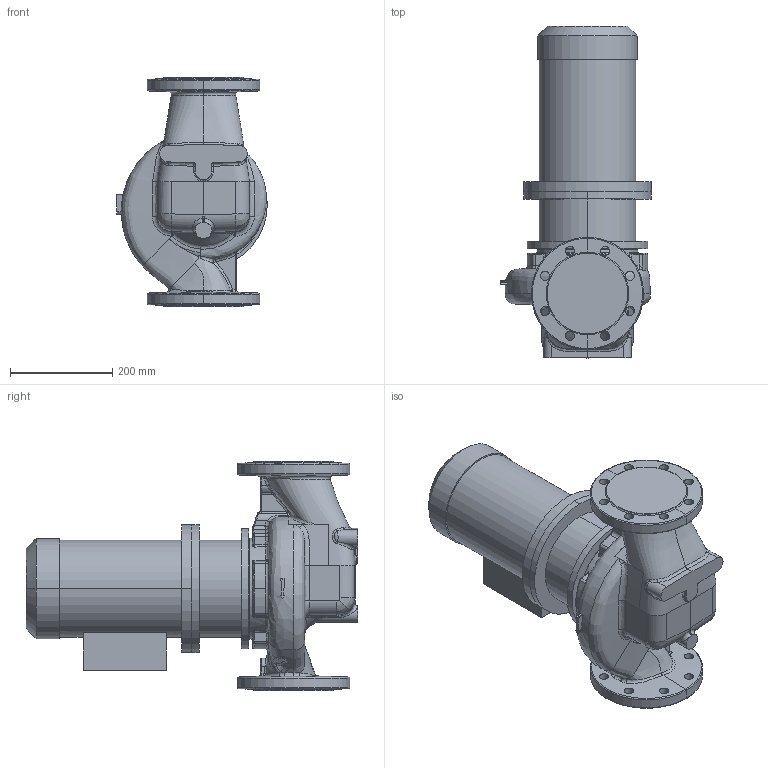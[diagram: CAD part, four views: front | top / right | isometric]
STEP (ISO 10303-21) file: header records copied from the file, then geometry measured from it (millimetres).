
FILE_DESCRIPTION (( 'STEP AP214' ), '1' );
FILE_NAME ('KRL 100-160-4-2,2.STEP', '2026-04-06T07:47:11', ( '' ), ( '' ), 'SwSTEP 2.0', 'SolidWorks 2016', '' );
FILE_SCHEMA (( 'AUTOMOTIVE_DESIGN' ));
Length unit declared in the file: millimetre
Products named in the file (1): KRL 100-160-4-2,2
Bounding box: 295 x 650.3 x 450 mm (x, y, z)
Volume: 27084286.5 mm3; surface area: 1102178.2 mm2
Topology: 4 solids, 4 shells, 554 faces, 1355 edges, 813 vertices
Faces by surface type: bspline 255, cylinder 138, plane 85, cone 30, torus 28, sphere 18
Entity records: 55041 total; most frequent: CARTESIAN_POINT 38076, ORIENTED_EDGE 2686, DIRECTION 1647, EDGE_CURVE 1343, VERTEX_POINT 813, AXIS2_PLACEMENT_3D 702, B_SPLINE_CURVE_WITH_KNOTS 639, EDGE_LOOP 602
